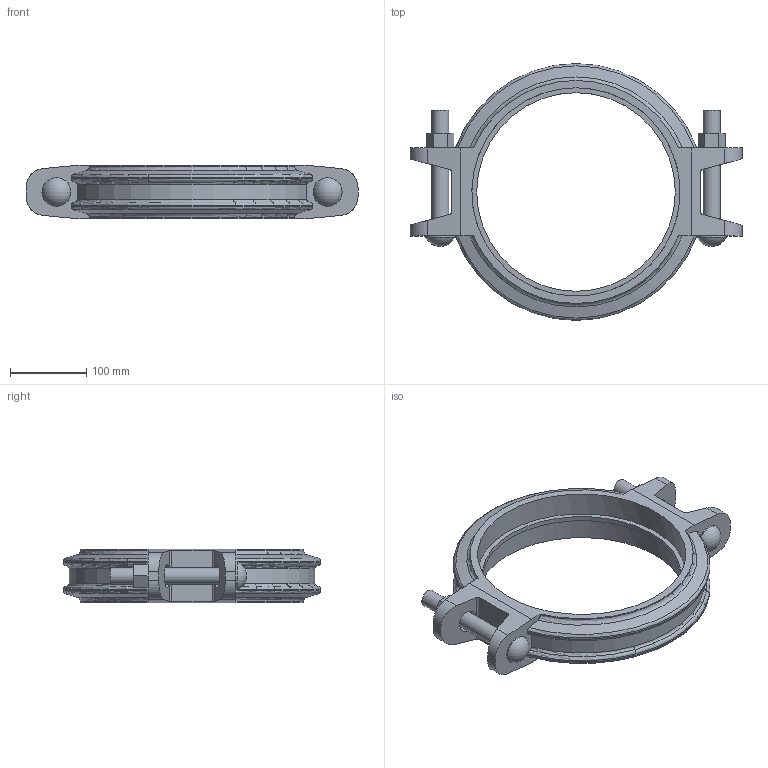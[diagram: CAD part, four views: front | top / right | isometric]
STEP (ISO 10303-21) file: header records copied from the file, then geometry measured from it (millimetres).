
FILE_DESCRIPTION(/* description */ ('VICTAULIC STYLE 009N FIRELOCK EZ RIGID COUPLING','CAx-IF Rec.Pracs.---Representation and Presentation of Product Manufacturing Information (PMI)---4.0---2014-10-13'),/* implementation_level */ '2;1');
FILE_NAME(/* name */ 'C:\Users\Vjadhav\AppData\Roaming\Autodesk\ApplicationPlugins\Victaulic.Temp\A361\Victaulic_FP-FireLock_Coupling Rigid_IR_Style 009N (OGS)_10 (250).stp',/* time_stamp */ '2022-03-23T18:55:50+05:00',/* author */ ('Vjadhav'),/* organization */ ('Victaulic'),/* preprocessor_version */ 'ST-DEVELOPER v17.2',/* originating_system */ 'Autodesk Inventor 2019',/* authorisation */ '');
FILE_SCHEMA (('AP242_MANAGED_MODEL_BASED_3D_ENGINEERING_MIM_LF { 1 0 10303 442 1 1 4 }'));
Length unit declared in the file: inch
Products named in the file (2): 009N-10.0; 009N-10.0_1
Assembly tree (1 placements, depth 2):
  009N-10.0
    009N-10.0_1
Bounding box: 435.1 x 336.55 x 69.85 mm (x, y, z)
Volume: 2046342.2 mm3; surface area: 260961.4 mm2
Topology: 1 solids, 1 shells, 111 faces, 315 edges, 214 vertices
Faces by surface type: plane 50, cylinder 39, torus 16, cone 4, sphere 2
Full cylindrical faces by diameter (mm): 22.225 x4, 37.694 x2, 260.35 x1, 273.05 x2
Entity records: 4247 total; most frequent: CARTESIAN_POINT 1107, ORIENTED_EDGE 630, DIRECTION 613, EDGE_CURVE 315, AXIS2_PLACEMENT_3D 224, VERTEX_POINT 214, LINE 165, VECTOR 165
